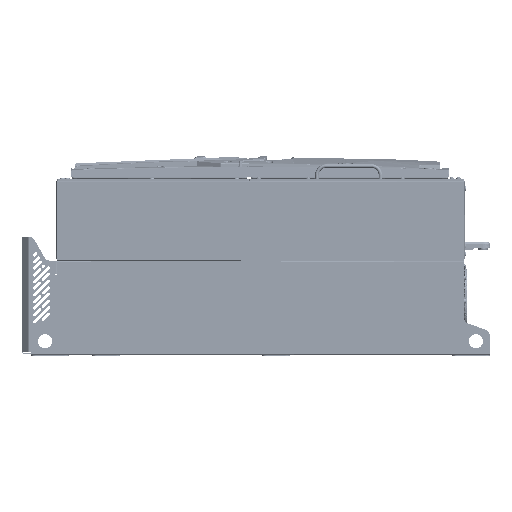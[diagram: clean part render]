
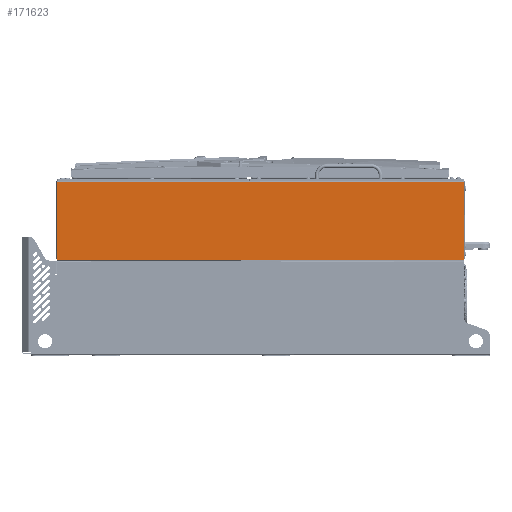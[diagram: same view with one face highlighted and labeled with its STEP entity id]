
A CAD part, left-side view. The second image highlights one B-rep face of the part: STEP entity #171623.
In plain terms, the highlighted planar face has unit normal (-1, 0, 0).
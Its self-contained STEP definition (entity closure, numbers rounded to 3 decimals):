
#9008 = CARTESIAN_POINT ( 'NONE',  ( -222., -429.833, 369.25 ) ) ;
#16652 = CARTESIAN_POINT ( 'NONE',  ( -222., -439., 369.25 ) ) ;
#23218 = LINE ( 'NONE', #50757, #289147 ) ;
#24508 = B_SPLINE_CURVE_WITH_KNOTS ( 'NONE', 3,
 ( #231604, #9008, #108117, #202411 ),
 .UNSPECIFIED., .F., .F.,
 ( 4, 4 ),
 ( 0.984, 1. ),
 .UNSPECIFIED. ) ;
#29072 = EDGE_CURVE ( 'NONE', #43604, #46959, #101341, .T. ) ;
#29611 = DIRECTION ( 'NONE',  ( 0., 1., 0. ) ) ;
#30583 = EDGE_CURVE ( 'NONE', #46959, #315825, #23218, .T. ) ;
#31482 = CARTESIAN_POINT ( 'NONE',  ( -222., -429.833, 203.75 ) ) ;
#43061 = DIRECTION ( 'NONE',  ( 0., 0., 1. ) ) ;
#43604 = VERTEX_POINT ( 'NONE', #279707 ) ;
#44283 = ORIENTED_EDGE ( 'NONE', *, *, #189958, .F. ) ;
#46959 = VERTEX_POINT ( 'NONE', #265989 ) ;
#50757 = CARTESIAN_POINT ( 'NONE',  ( -222., 425., 203.75 ) ) ;
#70045 = CARTESIAN_POINT ( 'NONE',  ( -222., -439., 369.25 ) ) ;
#80181 = CARTESIAN_POINT ( 'NONE',  ( -222., -439., 203.75 ) ) ;
#84681 = CARTESIAN_POINT ( 'NONE',  ( -222., 425., 369.25 ) ) ;
#89919 = LINE ( 'NONE', #263836, #124794 ) ;
#90490 = VERTEX_POINT ( 'NONE', #16652 ) ;
#93343 = ORIENTED_EDGE ( 'NONE', *, *, #117058, .F. ) ;
#101341 = B_SPLINE_CURVE_WITH_KNOTS ( 'NONE', 3,
 ( #80181, #302804, #31482, #130590 ),
 .UNSPECIFIED., .F., .F.,
 ( 4, 4 ),
 ( 0., 0.016 ),
 .UNSPECIFIED. ) ;
#107488 = CARTESIAN_POINT ( 'NONE',  ( -222., -425.25, 369.25 ) ) ;
#108117 = CARTESIAN_POINT ( 'NONE',  ( -222., -434.417, 369.25 ) ) ;
#112769 = ORIENTED_EDGE ( 'NONE', *, *, #30583, .F. ) ;
#117058 = EDGE_CURVE ( 'NONE', #90490, #43604, #164052, .T. ) ;
#117601 = EDGE_LOOP ( 'NONE', ( #44283, #140704, #135894, #112769, #174511, #93343 ) ) ;
#121356 = EDGE_CURVE ( 'NONE', #320843, #179732, #294849, .T. ) ;
#124794 = VECTOR ( 'NONE', #140303, 1000. ) ;
#130590 = CARTESIAN_POINT ( 'NONE',  ( -222., -425.25, 203.75 ) ) ;
#134023 = CARTESIAN_POINT ( 'NONE',  ( -222., -439., 258.917 ) ) ;
#135894 = ORIENTED_EDGE ( 'NONE', *, *, #231216, .T. ) ;
#140303 = DIRECTION ( 'NONE',  ( 0., 0., -1. ) ) ;
#140704 = ORIENTED_EDGE ( 'NONE', *, *, #121356, .T. ) ;
#163355 = FACE_OUTER_BOUND ( 'NONE', #117601, .T. ) ;
#164052 = B_SPLINE_CURVE_WITH_KNOTS ( 'NONE', 3,
 ( #70045, #185958, #134023, #292671 ),
 .UNSPECIFIED., .F., .F.,
 ( 4, 4 ),
 ( 0., 1. ),
 .UNSPECIFIED. ) ;
#171623 = ADVANCED_FACE ( 'NONE', ( #163355 ), #314442, .F. ) ;
#172940 = CARTESIAN_POINT ( 'NONE',  ( -222., -439., 369.25 ) ) ;
#174511 = ORIENTED_EDGE ( 'NONE', *, *, #29072, .F. ) ;
#179732 = VERTEX_POINT ( 'NONE', #84681 ) ;
#185958 = CARTESIAN_POINT ( 'NONE',  ( -222., -439., 314.083 ) ) ;
#189958 = EDGE_CURVE ( 'NONE', #320843, #90490, #24508, .T. ) ;
#202411 = CARTESIAN_POINT ( 'NONE',  ( -222., -439., 369.25 ) ) ;
#214274 = AXIS2_PLACEMENT_3D ( 'NONE', #265754, #262514, #43061 ) ;
#218507 = DIRECTION ( 'NONE',  ( 0., 1., 0. ) ) ;
#231216 = EDGE_CURVE ( 'NONE', #179732, #315825, #89919, .T. ) ;
#231604 = CARTESIAN_POINT ( 'NONE',  ( -222., -425.25, 369.25 ) ) ;
#262514 = DIRECTION ( 'NONE',  ( 1., 0., 0. ) ) ;
#262575 = CARTESIAN_POINT ( 'NONE',  ( -222., 425., 203.75 ) ) ;
#263836 = CARTESIAN_POINT ( 'NONE',  ( -222., 425., 203. ) ) ;
#265754 = CARTESIAN_POINT ( 'NONE',  ( -222., 0., 203. ) ) ;
#265989 = CARTESIAN_POINT ( 'NONE',  ( -222., -425.25, 203.75 ) ) ;
#279707 = CARTESIAN_POINT ( 'NONE',  ( -222., -439., 203.75 ) ) ;
#289147 = VECTOR ( 'NONE', #29611, 1000. ) ;
#292671 = CARTESIAN_POINT ( 'NONE',  ( -222., -439., 203.75 ) ) ;
#294849 = LINE ( 'NONE', #172940, #308742 ) ;
#302804 = CARTESIAN_POINT ( 'NONE',  ( -222., -434.417, 203.75 ) ) ;
#308742 = VECTOR ( 'NONE', #218507, 1000. ) ;
#314442 = PLANE ( 'NONE',  #214274 ) ;
#315825 = VERTEX_POINT ( 'NONE', #262575 ) ;
#320843 = VERTEX_POINT ( 'NONE', #107488 ) ;
